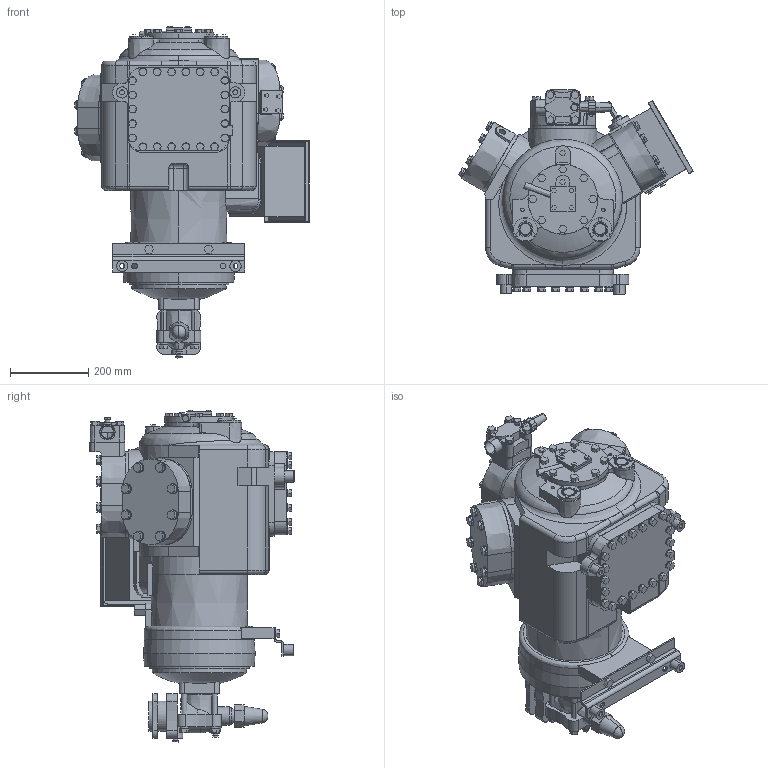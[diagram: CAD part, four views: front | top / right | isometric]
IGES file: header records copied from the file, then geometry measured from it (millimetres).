
Start section:  PTC IGES file: 06e61essl_sv_sw0001.igs
Global section: file name: 06e61essl_sv_sw0001.igs; native system: Pro/ENGINEER by Parametric Technology Corporation; preprocessor: 2001280; author: kannanb; organization: Unknown; date: 040123.180003; units: inch
Bounding box: 599.07 x 520.29 x 846.75 mm (x, y, z)
Surface area: 2110776.8 mm2 (no closed solid volume)
Topology: 0 solids, 0 shells, 1317 faces, 6564 edges, 6562 vertices
Faces by surface type: bspline 903, revolution 414
